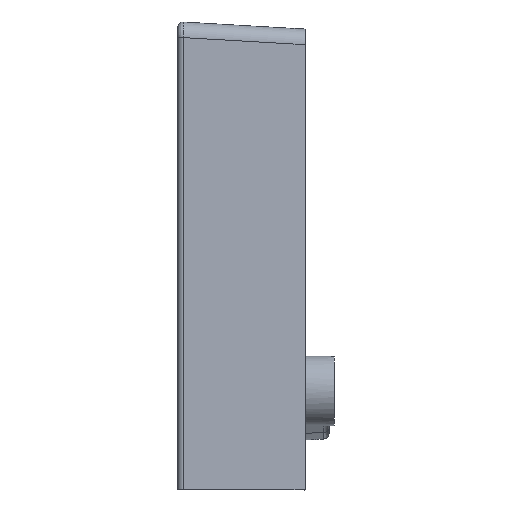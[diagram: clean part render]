
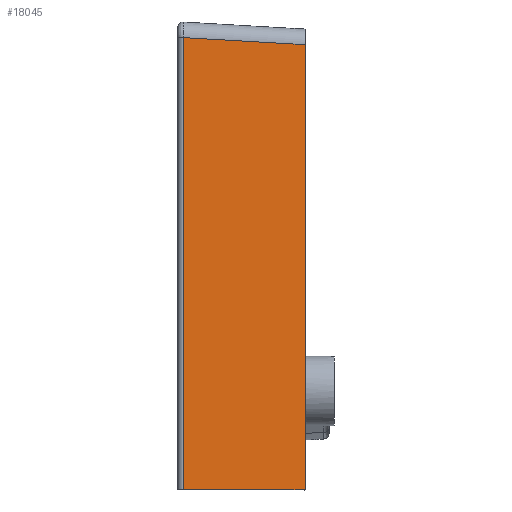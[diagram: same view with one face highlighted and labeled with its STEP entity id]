
A CAD part, left-side view. The second image highlights one B-rep face of the part: STEP entity #18045.
In plain terms, the highlighted planar face has unit normal (-0.998, -0.058, 0).
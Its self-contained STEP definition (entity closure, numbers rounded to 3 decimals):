
#716 = ORIENTED_EDGE ( 'NONE', *, *, #12415, .T. ) ;
#946 = VERTEX_POINT ( 'NONE', #12388 ) ;
#968 = DIRECTION ( 'NONE',  ( 0., 0., -1. ) ) ;
#1504 = VECTOR ( 'NONE', #24633, 1000. ) ;
#1786 = LINE ( 'NONE', #15222, #1504 ) ;
#2023 = VECTOR ( 'NONE', #19051, 1000. ) ;
#3704 = ORIENTED_EDGE ( 'NONE', *, *, #14441, .F. ) ;
#4488 = CARTESIAN_POINT ( 'NONE',  ( 7.056, 1187.986, -450.025 ) ) ;
#5013 = LINE ( 'NONE', #24982, #13017 ) ;
#5752 = LINE ( 'NONE', #21523, #2023 ) ;
#5983 = VERTEX_POINT ( 'NONE', #26380 ) ;
#10794 = CARTESIAN_POINT ( 'NONE',  ( 6.939, 1189.986, -0.037 ) ) ;
#11664 = VERTEX_POINT ( 'NONE', #4488 ) ;
#12388 = CARTESIAN_POINT ( 'NONE',  ( 7.056, 1187.986, -22.128 ) ) ;
#12415 = EDGE_CURVE ( 'NONE', #946, #23839, #1786, .T. ) ;
#12528 = FACE_OUTER_BOUND ( 'NONE', #20681, .T. ) ;
#13017 = VECTOR ( 'NONE', #968, 1000. ) ;
#13159 = AXIS2_PLACEMENT_3D ( 'NONE', #10794, #21538, #21808 ) ;
#13252 = LINE ( 'NONE', #15874, #26027 ) ;
#14441 = EDGE_CURVE ( 'NONE', #946, #11664, #5013, .T. ) ;
#15222 = CARTESIAN_POINT ( 'NONE',  ( 6.865, 1191.259, -21.937 ) ) ;
#15272 = EDGE_CURVE ( 'NONE', #23839, #5983, #13252, .T. ) ;
#15874 = CARTESIAN_POINT ( 'NONE',  ( 0.231, 1304.991, -450.025 ) ) ;
#17333 = PLANE ( 'NONE',  #13159 ) ;
#18045 = ADVANCED_FACE ( 'NONE', ( #12528 ), #17333, .T. ) ;
#19051 = DIRECTION ( 'NONE',  ( -0.058, 0.998, 0. ) ) ;
#20681 = EDGE_LOOP ( 'NONE', ( #716, #26043, #22591, #3704 ) ) ;
#21523 = CARTESIAN_POINT ( 'NONE',  ( 6.939, 1189.986, -450.025 ) ) ;
#21538 = DIRECTION ( 'NONE',  ( -0.998, -0.058, 0. ) ) ;
#21808 = DIRECTION ( 'NONE',  ( 0., 0., 1. ) ) ;
#22385 = DIRECTION ( 'NONE',  ( 0., 0., -1. ) ) ;
#22591 = ORIENTED_EDGE ( 'NONE', *, *, #28548, .F. ) ;
#23839 = VERTEX_POINT ( 'NONE', #25778 ) ;
#24633 = DIRECTION ( 'NONE',  ( -0.058, 0.997, 0.058 ) ) ;
#24982 = CARTESIAN_POINT ( 'NONE',  ( 7.056, 1187.986, -0.037 ) ) ;
#25778 = CARTESIAN_POINT ( 'NONE',  ( 0.231, 1304.991, -15.302 ) ) ;
#26027 = VECTOR ( 'NONE', #22385, 1000. ) ;
#26043 = ORIENTED_EDGE ( 'NONE', *, *, #15272, .T. ) ;
#26380 = CARTESIAN_POINT ( 'NONE',  ( 0.231, 1304.991, -450.025 ) ) ;
#28548 = EDGE_CURVE ( 'NONE', #11664, #5983, #5752, .T. ) ;
